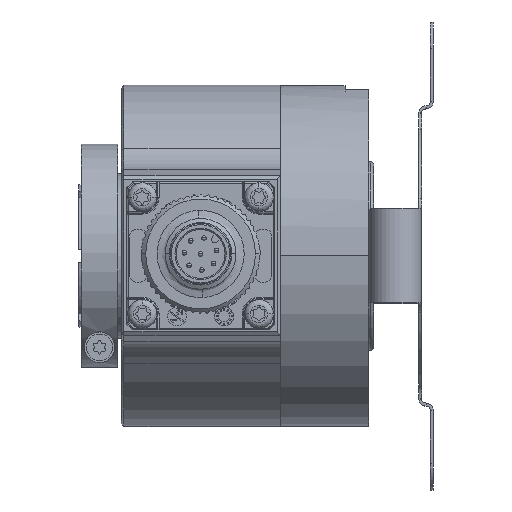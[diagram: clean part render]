
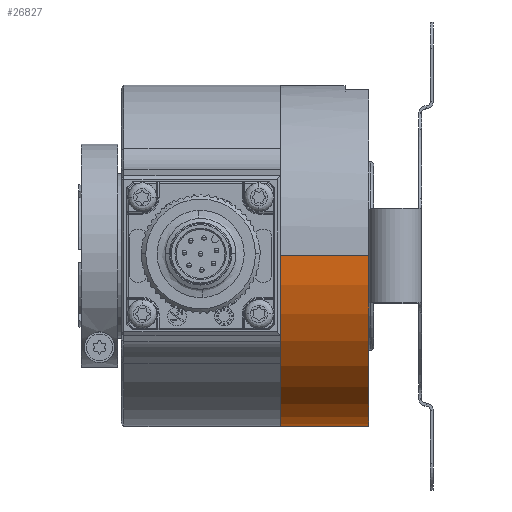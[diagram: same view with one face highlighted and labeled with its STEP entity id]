
A CAD part, top view. The second image highlights one B-rep face of the part: STEP entity #26827.
In plain terms, the highlighted cylindrical face has radius 29 mm (diameter 58 mm), a partial arc.
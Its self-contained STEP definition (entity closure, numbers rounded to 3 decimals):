
#774 = EDGE_CURVE ( 'NONE', #4595, #1634, #22431, .T. ) ;
#1075 = CARTESIAN_POINT ( 'NONE',  ( -21.996, 0., 0. ) ) ;
#1223 = VERTEX_POINT ( 'NONE', #36059 ) ;
#1436 = VECTOR ( 'NONE', #32993, 1000. ) ;
#1564 = AXIS2_PLACEMENT_3D ( 'NONE', #1075, #45297, #24914 ) ;
#1576 = EDGE_LOOP ( 'NONE', ( #9642, #25465, #29644, #47330 ) ) ;
#1634 = VERTEX_POINT ( 'NONE', #36262 ) ;
#4517 = AXIS2_PLACEMENT_3D ( 'NONE', #12272, #15714, #44062 ) ;
#4595 = VERTEX_POINT ( 'NONE', #12537 ) ;
#7647 = DIRECTION ( 'NONE',  ( -1., 0., 0. ) ) ;
#8748 = FACE_OUTER_BOUND ( 'NONE', #1576, .T. ) ;
#9642 = ORIENTED_EDGE ( 'NONE', *, *, #39024, .F. ) ;
#10174 = VECTOR ( 'NONE', #7647, 1000. ) ;
#12030 = DIRECTION ( 'NONE',  ( 0., 0., 1. ) ) ;
#12272 = CARTESIAN_POINT ( 'NONE',  ( 0., 0., 0. ) ) ;
#12537 = CARTESIAN_POINT ( 'NONE',  ( 15., 0., -29. ) ) ;
#13579 = EDGE_CURVE ( 'NONE', #44013, #1223, #36631, .T. ) ;
#15714 = DIRECTION ( 'NONE',  ( -1., 0., 0. ) ) ;
#19196 = EDGE_CURVE ( 'NONE', #1634, #1223, #44670, .T. ) ;
#20762 = AXIS2_PLACEMENT_3D ( 'NONE', #23698, #32147, #12030 ) ;
#21452 = CYLINDRICAL_SURFACE ( 'NONE', #1564, 29. ) ;
#22431 = CIRCLE ( 'NONE', #20762, 29. ) ;
#23319 = CARTESIAN_POINT ( 'NONE',  ( 0., 0., -29. ) ) ;
#23698 = CARTESIAN_POINT ( 'NONE',  ( 15., 0., 0. ) ) ;
#24914 = DIRECTION ( 'NONE',  ( 0., 0., 1. ) ) ;
#25465 = ORIENTED_EDGE ( 'NONE', *, *, #774, .T. ) ;
#26827 = ADVANCED_FACE ( 'NONE', ( #8748 ), #21452, .T. ) ;
#29644 = ORIENTED_EDGE ( 'NONE', *, *, #19196, .T. ) ;
#32147 = DIRECTION ( 'NONE',  ( -1., 0., 0. ) ) ;
#32993 = DIRECTION ( 'NONE',  ( -1., 0., 0. ) ) ;
#36059 = CARTESIAN_POINT ( 'NONE',  ( 0., 0., 29. ) ) ;
#36262 = CARTESIAN_POINT ( 'NONE',  ( 15., 0., 29. ) ) ;
#36631 = CIRCLE ( 'NONE', #4517, 29. ) ;
#39024 = EDGE_CURVE ( 'NONE', #4595, #44013, #48696, .T. ) ;
#40683 = CARTESIAN_POINT ( 'NONE',  ( -21.996, 0., 29. ) ) ;
#44013 = VERTEX_POINT ( 'NONE', #23319 ) ;
#44062 = DIRECTION ( 'NONE',  ( 0., 0., 1. ) ) ;
#44670 = LINE ( 'NONE', #40683, #1436 ) ;
#45297 = DIRECTION ( 'NONE',  ( -1., 0., 0. ) ) ;
#47330 = ORIENTED_EDGE ( 'NONE', *, *, #13579, .F. ) ;
#48166 = CARTESIAN_POINT ( 'NONE',  ( -21.996, 0., -29. ) ) ;
#48696 = LINE ( 'NONE', #48166, #10174 ) ;
